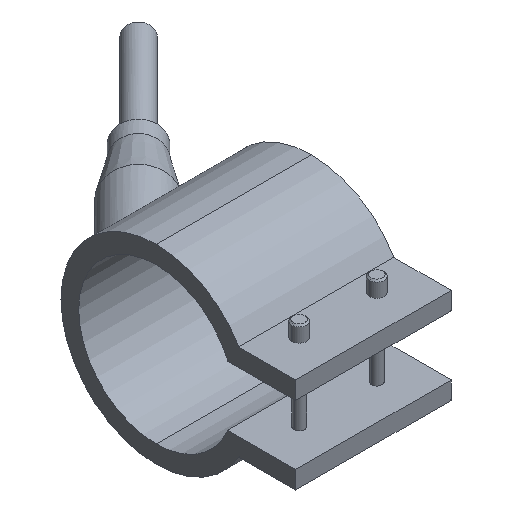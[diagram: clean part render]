
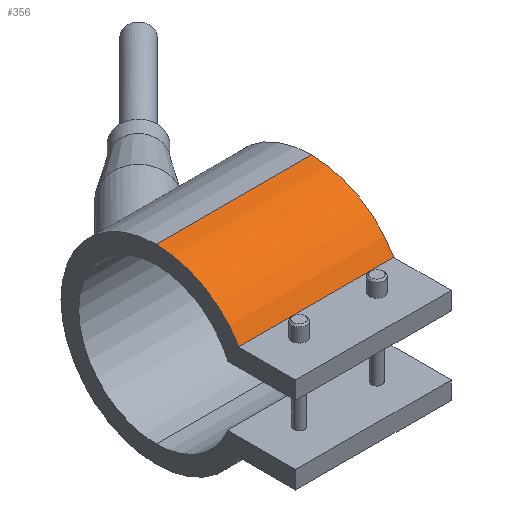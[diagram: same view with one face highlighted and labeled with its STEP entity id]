
A CAD part, isometric view. The second image highlights one B-rep face of the part: STEP entity #356.
In plain terms, the highlighted cylindrical face has radius 21.5 mm (diameter 43 mm), a partial arc.
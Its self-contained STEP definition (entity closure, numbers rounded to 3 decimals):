
#236=CARTESIAN_POINT('Line Origine',(17.5,0.,21.5)) ;
#240=CARTESIAN_POINT('Vertex',(17.5,0.,21.5)) ;
#242=CARTESIAN_POINT('Vertex',(-17.5,0.,21.5)) ;
#326=CARTESIAN_POINT('Axis2P3D Location',(17.5,0.,0.)) ;
#331=CARTESIAN_POINT('Axis2P3D Location',(-17.5,0.,0.)) ;
#335=CARTESIAN_POINT('Vertex',(-17.5,-18.62,10.75)) ;
#338=CARTESIAN_POINT('Line Origine',(17.5,-18.62,10.75)) ;
#342=CARTESIAN_POINT('Vertex',(17.5,-18.62,10.75)) ;
#345=CARTESIAN_POINT('Axis2P3D Location',(17.5,0.,0.)) ;
#237=DIRECTION('Vector Direction',(1.,0.,0.)) ;
#327=DIRECTION('Axis2P3D Direction',(1.,0.,-0.)) ;
#328=DIRECTION('Axis2P3D XDirection',(0.,0.,1.)) ;
#332=DIRECTION('Axis2P3D Direction',(1.,0.,-0.)) ;
#339=DIRECTION('Vector Direction',(1.,0.,0.)) ;
#346=DIRECTION('Axis2P3D Direction',(1.,0.,-0.)) ;
#329=AXIS2_PLACEMENT_3D('Cylinder Axis2P3D',#326,#327,#328) ;
#333=AXIS2_PLACEMENT_3D('Circle Axis2P3D',#331,#332,$) ;
#347=AXIS2_PLACEMENT_3D('Circle Axis2P3D',#345,#346,$) ;
#351=ORIENTED_EDGE('',*,*,#244,.T.) ;
#352=ORIENTED_EDGE('',*,*,#337,.T.) ;
#353=ORIENTED_EDGE('',*,*,#344,.F.) ;
#354=ORIENTED_EDGE('',*,*,#349,.F.) ;
#238=VECTOR('Line Direction',#237,1.) ;
#340=VECTOR('Line Direction',#339,1.) ;
#356=ADVANCED_FACE('29035035',(#355),#330,.T.) ;
#334=CIRCLE('generated circle',#333,21.5) ;
#348=CIRCLE('generated circle',#347,21.5) ;
#330=CYLINDRICAL_SURFACE('generated cylinder',#329,21.5) ;
#244=EDGE_CURVE('',#241,#243,#239,.F.) ;
#337=EDGE_CURVE('',#243,#336,#334,.T.) ;
#344=EDGE_CURVE('',#343,#336,#341,.F.) ;
#349=EDGE_CURVE('',#241,#343,#348,.T.) ;
#350=EDGE_LOOP('',(#351,#352,#353,#354)) ;
#355=FACE_OUTER_BOUND('',#350,.T.) ;
#239=LINE('Line',#236,#238) ;
#341=LINE('Line',#338,#340) ;
#241=VERTEX_POINT('',#240) ;
#243=VERTEX_POINT('',#242) ;
#336=VERTEX_POINT('',#335) ;
#343=VERTEX_POINT('',#342) ;
